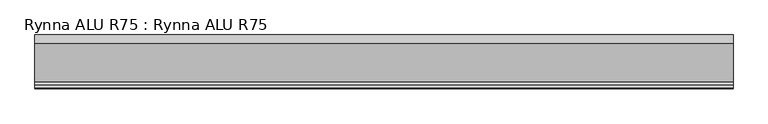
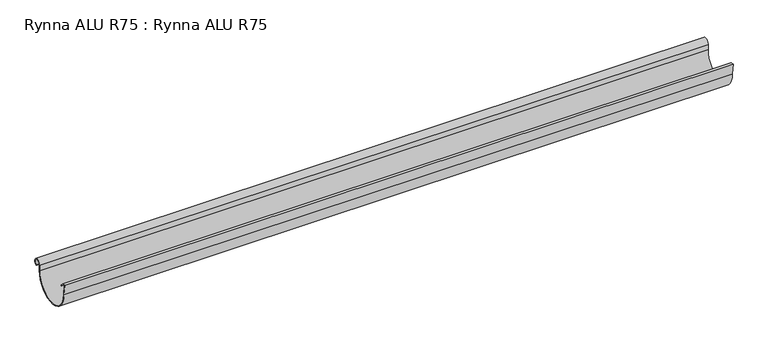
"""IFC4 building model written with IfcOpenShell, lengths in millimetres: proxy geometry, Rynna ALU R75 : Rynna ALU R75."""

import ifcopenshell
import ifcopenshell.guid

model = None  # the IFC model being written
_history = None  # IfcOwnerHistory: only IFC2X3 demands one
_inside = {}  # id of a spatial element -> (the spatial element, [elements in it])
_under = {}  # id of a project, library or spatial element -> (it, [spatial elements below it])
_declared = {}  # id of a project -> (the project, [libraries it declares])
_typed = {}  # id of a type object -> (the type object, [elements of that type])
_made_of = {}  # id of a material, layer set ... -> (it, [elements and type objects made of it])


def new_model(schema):
    """Start an empty IFC model of exactly this schema.

    Asked for "IFC4X3", IfcOpenShell would pick the latest addendum, in which some entities
    have other attributes; the version numbers below select the first issue.
    IFC2X3 requires an IfcOwnerHistory on every rooted entity: one is made here for all.
    """
    global model, _history
    if schema == "IFC4X3":
        model = ifcopenshell.file(schema_version=(4, 3, 0, 0))
    else:
        model = ifcopenshell.file(schema=schema)
    _inside.clear()
    _under.clear()
    _declared.clear()
    _typed.clear()
    _made_of.clear()
    _history = None
    if model.schema == "IFC2X3":
        org = make("IfcOrganization", Name="unknown")
        user = make(
            "IfcPersonAndOrganization",
            ThePerson=make("IfcPerson", FamilyName="unknown"),
            TheOrganization=org,
        )
        app = make(
            "IfcApplication",
            ApplicationDeveloper=org,
            Version="unknown",
            ApplicationFullName="unknown",
            ApplicationIdentifier="unknown",
        )
        _history = make(
            "IfcOwnerHistory",
            OwningUser=user,
            OwningApplication=app,
            ChangeAction="ADDED",
            CreationDate=0,
        )
    return model


def make(cls, **values):
    """One entity of the class cls with the attributes given. An attribute that is None is left unset."""
    return model.create_entity(
        cls, **{name: value for name, value in values.items() if value is not None}
    )


def rooted(cls, **values):
    """An entity with a GlobalId (a new one), such as an element, a storey or a relation."""
    return make(cls, GlobalId=ifcopenshell.guid.new(), OwnerHistory=_history, **values)


def si_unit(unit_type, name, prefix=None):
    """IfcSIUnit, for example si_unit("LENGTHUNIT", "METRE", prefix="MILLI")."""
    return make("IfcSIUnit", UnitType=unit_type, Prefix=prefix, Name=name)


def assignment(units):
    """IfcUnitAssignment: the units of a project."""
    return None if units is None else make("IfcUnitAssignment", Units=units)


def point(xyz):
    """IfcCartesianPoint."""
    return None if xyz is None else make("IfcCartesianPoint", Coordinates=xyz)


def direction(xyz):
    """IfcDirection."""
    return None if xyz is None else make("IfcDirection", DirectionRatios=xyz)


def frame(location, z_axis=None, x_axis=None):
    """IfcAxis2Placement3D, a coordinate frame: its origin and axes. An axis left out is left unset."""
    return make(
        "IfcAxis2Placement3D",
        Location=point(location),
        Axis=direction(z_axis),
        RefDirection=direction(x_axis),
    )


def frame_2d(location, x_axis=None):
    """IfcAxis2Placement2D, a coordinate frame in the plane: its origin and x axis."""
    return make(
        "IfcAxis2Placement2D", Location=point(location), RefDirection=direction(x_axis)
    )


def origin():
    """The frame at (0, 0, 0) with its axes left unset."""
    return frame((0.0, 0.0, 0.0))


def place(relative_to, where):
    """IfcLocalPlacement: puts the frame where relative to a parent placement (None: the world)."""
    return make(
        "IfcLocalPlacement", PlacementRelTo=relative_to, RelativePlacement=where
    )


def context(
    kind, dimensions, precision=None, world=None, true_north=None, identifier=None
):
    """IfcGeometricRepresentationContext, for example the 3D "Model" context."""
    return make(
        "IfcGeometricRepresentationContext",
        ContextIdentifier=identifier,
        ContextType=kind,
        CoordinateSpaceDimension=dimensions,
        Precision=precision,
        WorldCoordinateSystem=world,
        TrueNorth=true_north,
    )


def project(units=None, contexts=None):
    """IfcProject with its units and contexts."""
    return rooted(
        "IfcProject",
        Name="project",
        RepresentationContexts=contexts,
        UnitsInContext=assignment(units),
    )


def spatial(cls, under=None, at=None, **own):
    """A site, building, storey or space (cls), placed at a placement, below another one or the project."""
    s = rooted(cls, ObjectPlacement=at, **own)
    if under is not None:
        _under.setdefault(under.id(), (under, []))[1].append(s)
    return s


def polyline(points):
    """IfcPolyline through the points."""
    return make("IfcPolyline", Points=[point(p) for p in points])


def circle_curve(where, radius):
    """IfcCircle in the frame where."""
    return make("IfcCircle", Position=where, Radius=radius)


def trimmed(basis, trim1, trim2, sense, master):
    """IfcTrimmedCurve: the piece of a basis curve between two trims."""
    return make(
        "IfcTrimmedCurve",
        BasisCurve=basis,
        Trim1=trim1,
        Trim2=trim2,
        SenseAgreement=sense,
        MasterRepresentation=master,
    )


def segment(curve, same_sense, transition):
    """IfcCompositeCurveSegment."""
    return make(
        "IfcCompositeCurveSegment",
        Transition=transition,
        SameSense=same_sense,
        ParentCurve=curve,
    )


def composite_curve(segments, self_intersect=None):
    """IfcCompositeCurve: segments joined end to end."""
    return make("IfcCompositeCurve", Segments=segments, SelfIntersect=self_intersect)


def outline(outer, holes=None, kind="AREA"):
    """IfcArbitraryClosedProfileDef: a profile drawn as a closed curve; with holes, ...WithVoids."""
    if holes is None:
        return make("IfcArbitraryClosedProfileDef", ProfileType=kind, OuterCurve=outer)
    return make(
        "IfcArbitraryProfileDefWithVoids",
        ProfileType=kind,
        OuterCurve=outer,
        InnerCurves=holes,
    )


def extrude(swept, where, along, depth):
    """IfcExtrudedAreaSolid: the profile swept, set in the frame where, extruded along a direction by depth."""
    return make(
        "IfcExtrudedAreaSolid",
        SweptArea=swept,
        Position=where,
        ExtrudedDirection=direction(along),
        Depth=depth,
    )


def shape(context_of_items, identifier, shape_type, items):
    """IfcShapeRepresentation: the items that make up one representation, for example the "Body"."""
    return make(
        "IfcShapeRepresentation",
        ContextOfItems=context_of_items,
        RepresentationIdentifier=identifier,
        RepresentationType=shape_type,
        Items=items,
    )


def source(mapping_origin, context_of_items, identifier, shape_type, items):
    """IfcRepresentationMap: a shape defined once, which mapped items show again and again."""
    return make(
        "IfcRepresentationMap",
        MappingOrigin=mapping_origin,
        MappedRepresentation=shape(context_of_items, identifier, shape_type, items),
    )


def transform(
    local_origin,
    x_axis=None,
    y_axis=None,
    z_axis=None,
    scale=None,
    scale2=None,
    scale3=None,
    uniform=True,
):
    """IfcCartesianTransformationOperator3D, or its non-uniform kind. x_axis, y_axis, z_axis: its Axis1, 2, 3."""
    if uniform:
        return make(
            "IfcCartesianTransformationOperator3D",
            Axis1=direction(x_axis),
            Axis2=direction(y_axis),
            LocalOrigin=point(local_origin),
            Scale=scale,
            Axis3=direction(z_axis),
        )
    return make(
        "IfcCartesianTransformationOperator3DnonUniform",
        Axis1=direction(x_axis),
        Axis2=direction(y_axis),
        LocalOrigin=point(local_origin),
        Scale=scale,
        Axis3=direction(z_axis),
        Scale2=scale2,
        Scale3=scale3,
    )


def mapped(mapping_source, mapping_target):
    """IfcMappedItem: shows the shape of a source again, moved by a transform."""
    return make(
        "IfcMappedItem", MappingSource=mapping_source, MappingTarget=mapping_target
    )


def made_of(thing, what):
    """Note that an element or type object is made of a material, layer set ...; save() writes the relation."""
    if what is not None:
        _made_of.setdefault(what.id(), (what, []))[1].append(thing)
    return thing


def element(
    cls,
    number,
    at=None,
    inside=None,
    cuts=None,
    type_object=None,
    material=None,
    context=None,
    identifier="Body",
    shape_type=None,
    held_by="IfcProductDefinitionShape",
    body=None,
    shapes=None,
    **own,
):
    """One element of the class cls, such as IfcWall. Its Tag is "e" and its number.

    at: its placement. inside: the storey or other place that contains it. cuts: it is an
    opening in that element (IfcRelVoidsElement). A single representation is given by context,
    identifier, shape_type and body (its items); several are given by shapes. held_by: the class
    of the entity that holds the representations. save() writes the other relations.
    """
    e = rooted(cls, Tag="e%d" % number, ObjectPlacement=at, **own)
    if body is not None:
        shapes = [shape(context, identifier, shape_type, body)]
    if shapes is not None:
        e.Representation = make(held_by, Representations=shapes)
    if inside is not None:
        _inside.setdefault(inside.id(), (inside, []))[1].append(e)
    if cuts is not None:
        rooted(
            "IfcRelVoidsElement", RelatingBuildingElement=cuts, RelatedOpeningElement=e
        )
    if type_object is not None:
        _typed.setdefault(type_object.id(), (type_object, []))[1].append(e)
    return made_of(e, material)


def aggregate(whole, parts):
    """IfcRelAggregates: a whole, such as a stair, and the parts it consists of."""
    return rooted("IfcRelAggregates", RelatingObject=whole, RelatedObjects=parts)


def save(model, path):
    """Write the relations noted so far, then the file.

    IfcRelAggregates (storeys below a building ...), IfcRelContainedInSpatialStructure (elements
    in a storey), IfcRelDefinesByType, IfcRelAssociatesMaterial and IfcRelDeclares: one each for
    every whole, place, type object, material and project.
    """
    for whole, parts in _under.values():
        aggregate(whole, parts)
    for where, things in _inside.values():
        rooted(
            "IfcRelContainedInSpatialStructure",
            RelatedElements=things,
            RelatingStructure=where,
        )
    for kind, things in _typed.values():
        rooted("IfcRelDefinesByType", RelatedObjects=things, RelatingType=kind)
    for what, things in _made_of.values():
        rooted("IfcRelAssociatesMaterial", RelatedObjects=things, RelatingMaterial=what)
    for by, libraries in _declared.values():
        rooted("IfcRelDeclares", RelatingContext=by, RelatedDefinitions=libraries)
    model.write(path)


def rynna_alu_r75_rynna_alu_r75_86e53b27(model_context):
    return source(origin(), model_context, "Body", "SweptSolid", [
        extrude(outline(composite_curve([segment(trimmed(circle_curve(frame_2d((39.5, -18.8928858)), 37.5), [point((77.0000001, -18.8928858))], [point((2.0, -18.8928858))], False, "CARTESIAN"), True, "CONTINUOUS"), segment(polyline([(2.0, -18.8928858), (0.0, 0.0)]), True, "CONTINUOUS"), segment(trimmed(circle_curve(frame_2d((0.8393369, -17.5562346)), 17.5762868), [point((0.0, 0.0))], [point((5.4142136, -0.585779))], False, "CARTESIAN"), True, "CONTINUOUS"), segment(polyline([(5.4142136, -0.585779), (10.7298468, -5.9014122), (10.02274, -6.608519), (4.8989693, -1.4847483)]), True, "CONTINUOUS"), segment(trimmed(circle_curve(frame_2d((0.8393369, -17.5562346)), 16.5762868), [point((4.8989693, -1.4847483))], [point((1.1093439, -0.9821469))], True, "CARTESIAN"), True, "CONTINUOUS"), segment(polyline([(1.1093439, -0.9821469), (3.0000084, -18.8754102)]), True, "CONTINUOUS"), segment(trimmed(circle_curve(frame_2d((39.5000101, -18.8754102)), 36.5000017), [point((3.0000084, -18.8754102))], [point((76.0000118, -18.8754102))], True, "CARTESIAN"), True, "CONTINUOUS"), segment(polyline([(76.0000118, -18.8754102), (76.0000118, -9.3500002)]), True, "CONTINUOUS"), segment(trimmed(circle_curve(frame_2d((83.0655965, -8.651839)), 7.0999941), [point((76.0000118, -9.3500002))], [point((86.1676128, -15.0383413))], False, "CARTESIAN"), True, "CONTINUOUS"), segment(polyline([(86.1676128, -15.0383413), (86.1676128, -13.9042145)]), True, "CONTINUOUS"), segment(trimmed(circle_curve(frame_2d((83.065591, -8.6518374)), 6.1000004), [point((86.1676128, -13.9042145))], [point((77.0000001, -9.298839))], True, "CARTESIAN"), True, "CONTINUOUS"), segment(polyline([(77.0000001, -9.298839), (77.0000001, -18.8928858)]), True, "CONTINUOUS")], self_intersect=False)), frame((-584.999998, 0.0, 0.0), z_axis=(1.0, 0.0, 0.0), x_axis=(0.0, 1.0, 0.0)), (0.0, 0.0, 1.0), 1169.9999959),
    ])


if __name__ == "__main__":
    model = new_model("IFC4")
    model_context = context("Model", 3, world=origin())
    ifc_project = project(units=[si_unit("LENGTHUNIT", "METRE", prefix="MILLI")], contexts=[model_context])
    site = spatial("IfcSite", under=ifc_project)
    building = spatial("IfcBuilding", under=site)
    placement = place(None, origin())
    rynna_alu_r75_rynna_alu_r75_shape = rynna_alu_r75_rynna_alu_r75_86e53b27(model_context)
    element("IfcBuildingElementProxy", 1, Name="Rynna ALU R75 : Rynna ALU R75", ObjectType="Rynna ALU R75 : Rynna ALU R75", at=placement, inside=building, context=model_context, shape_type="MappedRepresentation", body=[
        mapped(rynna_alu_r75_rynna_alu_r75_shape, transform((0.0, 0.0, 0.0), x_axis=(1.0, 0.0, 0.0), y_axis=(0.0, 1.0, 0.0), z_axis=(0.0, 0.0, 1.0))),
    ])
    save(model, "model.ifc")
